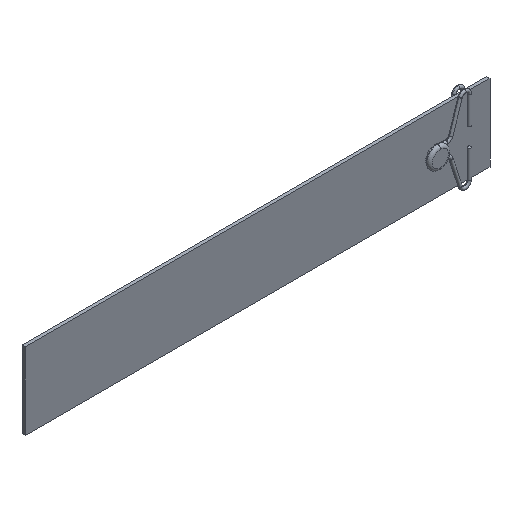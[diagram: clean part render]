
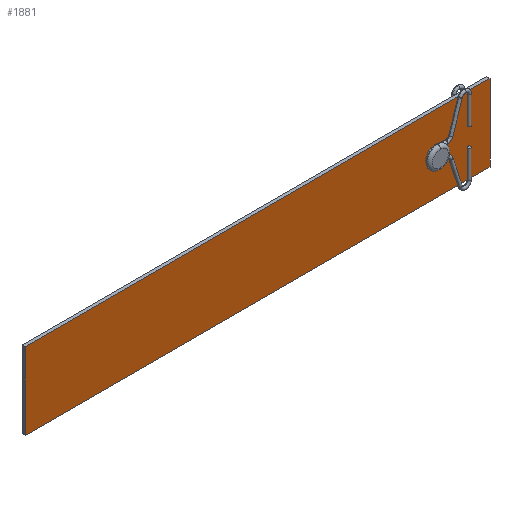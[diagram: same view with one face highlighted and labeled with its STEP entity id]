
A CAD part, isometric view. The second image highlights one B-rep face of the part: STEP entity #1881.
In plain terms, the highlighted planar face has unit normal (0, -1, 0).
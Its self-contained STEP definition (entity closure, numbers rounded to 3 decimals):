
#19 = DIRECTION ( 'NONE',  ( 0., 0., 1. ) ) ;
#27 = DIRECTION ( 'NONE',  ( 0., 1., 0. ) ) ;
#35 = AXIS2_PLACEMENT_3D ( 'NONE', #49, #27, #19 ) ;
#49 = CARTESIAN_POINT ( 'NONE',  ( -18., -0.5, 0. ) ) ;
#59 = VECTOR ( 'NONE', #130, 1000. ) ;
#86 = DIRECTION ( 'NONE',  ( 0., 0., 1. ) ) ;
#130 = DIRECTION ( 'NONE',  ( 0., 0., -1. ) ) ;
#162 = CARTESIAN_POINT ( 'NONE',  ( -150., -0.5, -12.4 ) ) ;
#168 = DIRECTION ( 'NONE',  ( 0., 1., 0. ) ) ;
#189 = DIRECTION ( 'NONE',  ( 0., 0., 1. ) ) ;
#220 = CARTESIAN_POINT ( 'NONE',  ( -18., -0.5, 0. ) ) ;
#246 = DIRECTION ( 'NONE',  ( -1., 0., 0. ) ) ;
#327 = ORIENTED_EDGE ( 'NONE', *, *, #1367, .F. ) ;
#354 = ORIENTED_EDGE ( 'NONE', *, *, #1817, .T. ) ;
#435 = CARTESIAN_POINT ( 'NONE',  ( -18., -0.5, -1.95 ) ) ;
#499 = FACE_BOUND ( 'NONE', #1257, .T. ) ;
#502 = VECTOR ( 'NONE', #545, 1000. ) ;
#520 = ORIENTED_EDGE ( 'NONE', *, *, #1721, .F. ) ;
#545 = DIRECTION ( 'NONE',  ( 1., 0., 0. ) ) ;
#607 = CIRCLE ( 'NONE', #35, 1.95 ) ;
#649 = VERTEX_POINT ( 'NONE', #1256 ) ;
#793 = AXIS2_PLACEMENT_3D ( 'NONE', #220, #168, #86 ) ;
#890 = CIRCLE ( 'NONE', #793, 1.95 ) ;
#952 = LINE ( 'NONE', #1816, #59 ) ;
#969 = EDGE_CURVE ( 'NONE', #1891, #1630, #952, .T. ) ;
#1060 = AXIS2_PLACEMENT_3D ( 'NONE', #1244, #1415, #1071 ) ;
#1062 = CARTESIAN_POINT ( 'NONE',  ( 0., -0.5, 12.4 ) ) ;
#1069 = VECTOR ( 'NONE', #246, 1000. ) ;
#1071 = DIRECTION ( 'NONE',  ( 0., 0., 1. ) ) ;
#1081 = PLANE ( 'NONE',  #1060 ) ;
#1121 = VECTOR ( 'NONE', #189, 1000. ) ;
#1198 = CARTESIAN_POINT ( 'NONE',  ( 0., -0.5, 12.4 ) ) ;
#1215 = CARTESIAN_POINT ( 'NONE',  ( -150., -0.5, -12.4 ) ) ;
#1221 = CARTESIAN_POINT ( 'NONE',  ( 0., -0.5, -12.4 ) ) ;
#1232 = CARTESIAN_POINT ( 'NONE',  ( -18., -0.5, 1.95 ) ) ;
#1244 = CARTESIAN_POINT ( 'NONE',  ( 0., -0.5, 0. ) ) ;
#1256 = CARTESIAN_POINT ( 'NONE',  ( -150., -0.5, 12.4 ) ) ;
#1257 = EDGE_LOOP ( 'NONE', ( #1493, #354 ) ) ;
#1272 = EDGE_CURVE ( 'NONE', #1630, #2031, #1579, .T. ) ;
#1279 = CARTESIAN_POINT ( 'NONE',  ( 0., -0.5, -12.4 ) ) ;
#1356 = ORIENTED_EDGE ( 'NONE', *, *, #969, .F. ) ;
#1366 = FACE_OUTER_BOUND ( 'NONE', #1822, .T. ) ;
#1367 = EDGE_CURVE ( 'NONE', #649, #1891, #1427, .T. ) ;
#1415 = DIRECTION ( 'NONE',  ( 0., 1., 0. ) ) ;
#1427 = LINE ( 'NONE', #1198, #502 ) ;
#1493 = ORIENTED_EDGE ( 'NONE', *, *, #2103, .T. ) ;
#1575 = LINE ( 'NONE', #162, #1121 ) ;
#1579 = LINE ( 'NONE', #1279, #1069 ) ;
#1630 = VERTEX_POINT ( 'NONE', #1221 ) ;
#1644 = ORIENTED_EDGE ( 'NONE', *, *, #1272, .F. ) ;
#1721 = EDGE_CURVE ( 'NONE', #2031, #649, #1575, .T. ) ;
#1783 = VERTEX_POINT ( 'NONE', #1232 ) ;
#1816 = CARTESIAN_POINT ( 'NONE',  ( 0., -0.5, 12.4 ) ) ;
#1817 = EDGE_CURVE ( 'NONE', #2132, #1783, #607, .T. ) ;
#1822 = EDGE_LOOP ( 'NONE', ( #1644, #1356, #327, #520 ) ) ;
#1881 = ADVANCED_FACE ( 'NONE', ( #499, #1366 ), #1081, .F. ) ;
#1891 = VERTEX_POINT ( 'NONE', #1062 ) ;
#2031 = VERTEX_POINT ( 'NONE', #1215 ) ;
#2103 = EDGE_CURVE ( 'NONE', #1783, #2132, #890, .T. ) ;
#2132 = VERTEX_POINT ( 'NONE', #435 ) ;
